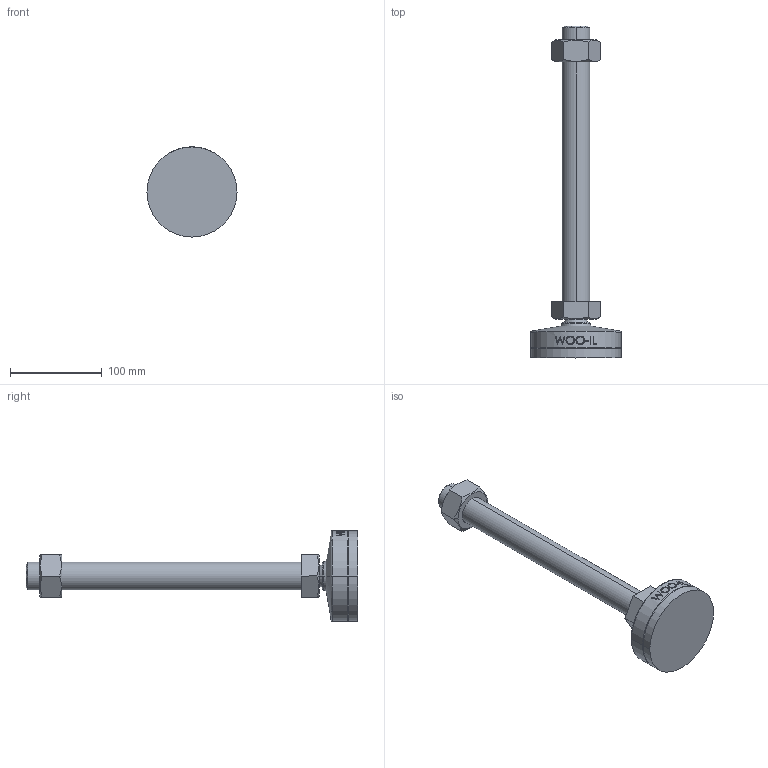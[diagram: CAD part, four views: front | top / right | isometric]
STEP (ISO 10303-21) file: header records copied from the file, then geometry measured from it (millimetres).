
FILE_DESCRIPTION (( 'STEP AP214' ), '1' );
FILE_NAME ('MFNR98-M30-300.step', '2021-02-22T09:10:10', ( '' ), ( '' ), 'SwSTEP 2.0', 'SolidWorks 2019', '' );
FILE_SCHEMA (( 'AUTOMOTIVE_DESIGN' ));
Length unit declared in the file: millimetre
Products named in the file (2): MFNR98-M30-300
Bounding box: 98 x 361 x 98 mm (x, y, z)
Volume: 516276.8 mm3; surface area: 66895.8 mm2
Topology: 2 solids, 2 shells, 103 faces, 239 edges, 152 vertices
Faces by surface type: plane 47, cone 18, cylinder 16, bspline 16, torus 4, sphere 2
Entity records: 4543 total; most frequent: CARTESIAN_POINT 2264, ORIENTED_EDGE 478, DIRECTION 423, EDGE_CURVE 239, AXIS2_PLACEMENT_3D 161, VERTEX_POINT 152, EDGE_LOOP 117, FACE_OUTER_BOUND 103
